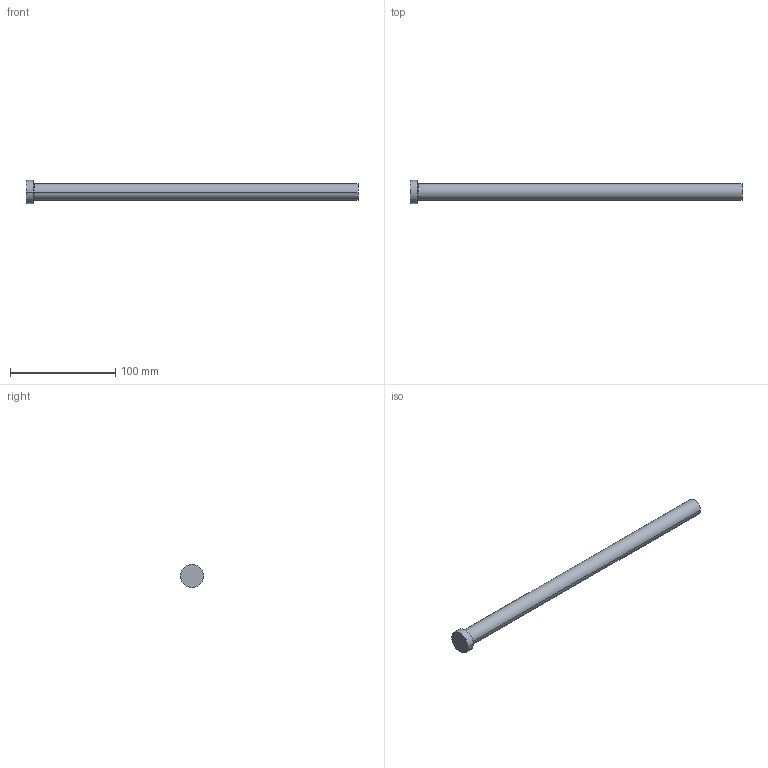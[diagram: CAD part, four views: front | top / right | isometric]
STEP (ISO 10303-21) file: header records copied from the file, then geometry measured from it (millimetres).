
FILE_DESCRIPTION (( 'STEP AP214' ), '1' );
FILE_NAME ('A-16x315.STEP', '2020-05-29T16:19:29', ( 'August' ), ( '' ), 'SwSTEP 2.0', 'SolidWorks 2018', '' );
FILE_SCHEMA (( 'AUTOMOTIVE_DESIGN' ));
Length unit declared in the file: millimetre
Products named in the file (1): A-16x315
Bounding box: 315 x 22 x 22 mm (x, y, z)
Volume: 64595.1 mm3; surface area: 16708.9 mm2
Topology: 1 solids, 1 shells, 9 faces, 16 edges, 10 vertices
Faces by surface type: cylinder 4, plane 3, torus 2
Entity records: 260 total; most frequent: DIRECTION 48, CARTESIAN_POINT 36, ORIENTED_EDGE 32, AXIS2_PLACEMENT_3D 22, EDGE_CURVE 16, CIRCLE 12, VERTEX_POINT 10, EDGE_LOOP 10
